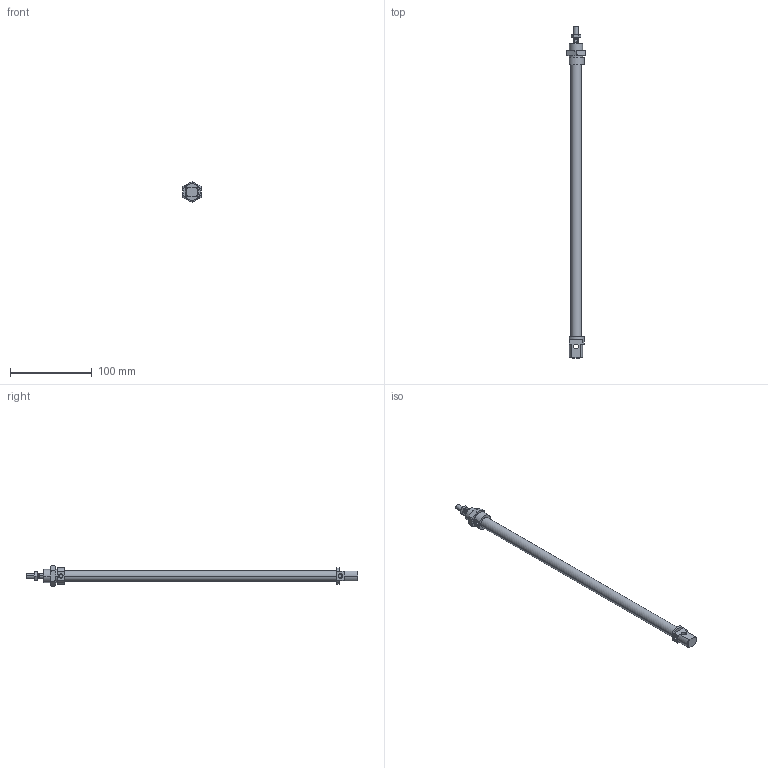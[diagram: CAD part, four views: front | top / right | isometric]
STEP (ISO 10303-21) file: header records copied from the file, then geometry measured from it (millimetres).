
FILE_DESCRIPTION((''),'2;1');
FILE_NAME('I:\DOC-EDP\Lib-3d\1200\CILINDRI\1280\1280_12_0300.stp','2003-04-07T14:51:40',('maffial1'),(''),'Autodesk Inventor (R) 6.0','Autodesk Inventor (R) 6.0','');
FILE_SCHEMA(('AUTOMOTIVE_DESIGN { 1 0 10303 214 1 1 1 1 }'));
Length unit declared in the file: millimetre
Products named in the file (5): 1280_12_0300; S1280_12_300; 1200_12_05; 1200_12_06; C1280_12_300
Assembly tree (4 placements, depth 2):
  1280_12_0300
    S1280_12_300
    1200_12_05
    1200_12_06
    C1280_12_300
Bounding box: 22 x 405 x 25.4 mm (x, y, z)
Volume: 58485.7 mm3; surface area: 31955.7 mm2
Topology: 4 solids, 4 shells, 121 faces, 268 edges, 162 vertices
Faces by surface type: cone 40, plane 39, cylinder 22, bspline 20
Entity records: 3653 total; most frequent: CARTESIAN_POINT 976, DIRECTION 556, ORIENTED_EDGE 536, EDGE_CURVE 268, AXIS2_PLACEMENT_3D 230, VERTEX_POINT 162, EDGE_LOOP 134, FACE_OUTER_BOUND 121
